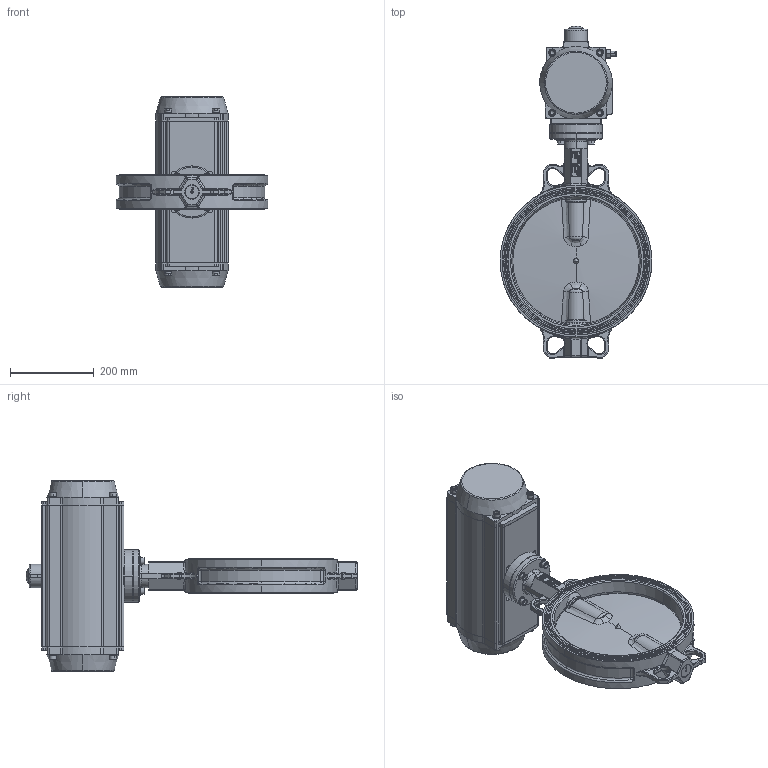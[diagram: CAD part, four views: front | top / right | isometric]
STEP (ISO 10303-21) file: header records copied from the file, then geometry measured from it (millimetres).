
FILE_DESCRIPTION (( 'STEP AP203' ), '1' );
FILE_NAME ('VPN-03 DN300.STEP', '2014-06-20T08:53:56', ( 'FAREX' ), ( '' ), 'SwSTEP 2.0', 'SolidWorks 2011', '' );
FILE_SCHEMA (( 'CONFIG_CONTROL_DESIGN' ));
Length unit declared in the file: millimetre
Products named in the file (1): VPN-03 DN300
Bounding box: 363.5 x 795.07 x 456 mm (x, y, z)
Volume: 9504910.2 mm3; surface area: 1729503.2 mm2
Topology: 68 solids, 69 shells, 5186 faces, 13120 edges, 8483 vertices
Faces by surface type: plane 1813, bspline 1809, cylinder 1023, cone 290, torus 225, sphere 26
Entity records: 234946 total; most frequent: CARTESIAN_POINT 122112, ORIENTED_EDGE 26108, DIRECTION 18294, EDGE_CURVE 13054, VERTEX_POINT 8481, AXIS2_PLACEMENT_3D 6194, LINE 5906, VECTOR 5906
